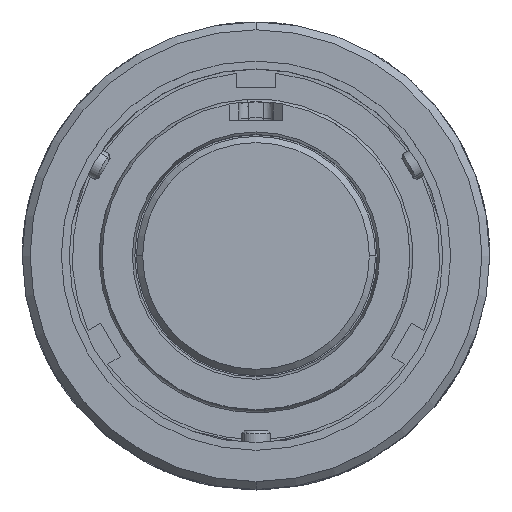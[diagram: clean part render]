
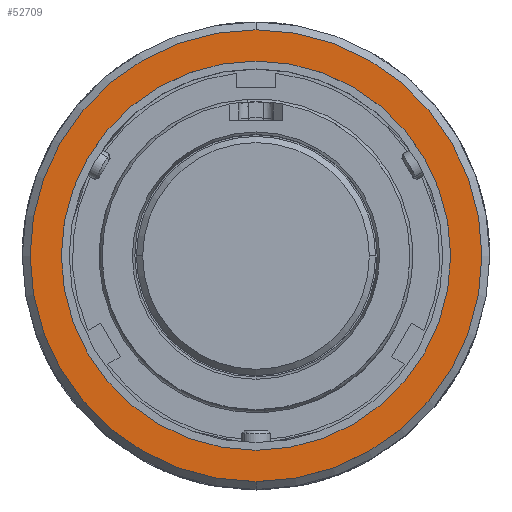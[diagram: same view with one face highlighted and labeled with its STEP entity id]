
A CAD part, top view. The second image highlights one B-rep face of the part: STEP entity #52709.
In plain terms, the highlighted planar face has unit normal (0, 0, 1).
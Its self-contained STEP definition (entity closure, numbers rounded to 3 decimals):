
#282 = EDGE_LOOP ( 'NONE', ( #86180, #65114 ) ) ;
#1842 = VERTEX_POINT ( 'NONE', #80340 ) ;
#5398 = CARTESIAN_POINT ( 'NONE',  ( 0., 0., -0.813 ) ) ;
#13652 = CIRCLE ( 'NONE', #22441, 15.812 ) ;
#13834 = EDGE_CURVE ( 'NONE', #31410, #1842, #99760, .T. ) ;
#15256 = CARTESIAN_POINT ( 'NONE',  ( 0., -15.812, -0.813 ) ) ;
#15399 = EDGE_CURVE ( 'NONE', #27308, #105742, #13652, .T. ) ;
#19982 = DIRECTION ( 'NONE',  ( 0., 0., -1. ) ) ;
#22441 = AXIS2_PLACEMENT_3D ( 'NONE', #92075, #58492, #32624 ) ;
#27308 = VERTEX_POINT ( 'NONE', #15256 ) ;
#31410 = VERTEX_POINT ( 'NONE', #83384 ) ;
#32624 = DIRECTION ( 'NONE',  ( 0., 1., 0. ) ) ;
#35368 = AXIS2_PLACEMENT_3D ( 'NONE', #51808, #67764, #101904 ) ;
#36692 = DIRECTION ( 'NONE',  ( 0., 1., 0. ) ) ;
#36697 = CIRCLE ( 'NONE', #98250, 18.352 ) ;
#40033 = AXIS2_PLACEMENT_3D ( 'NONE', #5398, #98955, #89606 ) ;
#44633 = FACE_BOUND ( 'NONE', #282, .T. ) ;
#51564 = EDGE_LOOP ( 'NONE', ( #64530, #106182 ) ) ;
#51808 = CARTESIAN_POINT ( 'NONE',  ( 0., 18.352, -0.813 ) ) ;
#52709 = ADVANCED_FACE ( 'NONE', ( #44633, #84287 ), #102439, .T. ) ;
#58492 = DIRECTION ( 'NONE',  ( 0., 0., -1. ) ) ;
#61097 = CARTESIAN_POINT ( 'NONE',  ( 0., 15.812, -0.813 ) ) ;
#64530 = ORIENTED_EDGE ( 'NONE', *, *, #97268, .F. ) ;
#65114 = ORIENTED_EDGE ( 'NONE', *, *, #15399, .T. ) ;
#67764 = DIRECTION ( 'NONE',  ( 0., 0., 1. ) ) ;
#73555 = EDGE_CURVE ( 'NONE', #105742, #27308, #94424, .T. ) ;
#79945 = DIRECTION ( 'NONE',  ( 0., 1., 0. ) ) ;
#80340 = CARTESIAN_POINT ( 'NONE',  ( 0., 18.352, -0.813 ) ) ;
#83384 = CARTESIAN_POINT ( 'NONE',  ( 0., -18.352, -0.813 ) ) ;
#84287 = FACE_OUTER_BOUND ( 'NONE', #51564, .T. ) ;
#86180 = ORIENTED_EDGE ( 'NONE', *, *, #73555, .T. ) ;
#86235 = CARTESIAN_POINT ( 'NONE',  ( 0., 0., -0.813 ) ) ;
#89167 = AXIS2_PLACEMENT_3D ( 'NONE', #86235, #103301, #36692 ) ;
#89606 = DIRECTION ( 'NONE',  ( 0., 1., 0. ) ) ;
#92075 = CARTESIAN_POINT ( 'NONE',  ( 0., 0., -0.813 ) ) ;
#94424 = CIRCLE ( 'NONE', #89167, 15.812 ) ;
#97268 = EDGE_CURVE ( 'NONE', #1842, #31410, #36697, .T. ) ;
#98250 = AXIS2_PLACEMENT_3D ( 'NONE', #104734, #19982, #79945 ) ;
#98955 = DIRECTION ( 'NONE',  ( 0., 0., -1. ) ) ;
#99760 = CIRCLE ( 'NONE', #40033, 18.352 ) ;
#101904 = DIRECTION ( 'NONE',  ( 0., -1., 0. ) ) ;
#102439 = PLANE ( 'NONE',  #35368 ) ;
#103301 = DIRECTION ( 'NONE',  ( 0., 0., -1. ) ) ;
#104734 = CARTESIAN_POINT ( 'NONE',  ( 0., 0., -0.813 ) ) ;
#105742 = VERTEX_POINT ( 'NONE', #61097 ) ;
#106182 = ORIENTED_EDGE ( 'NONE', *, *, #13834, .F. ) ;
